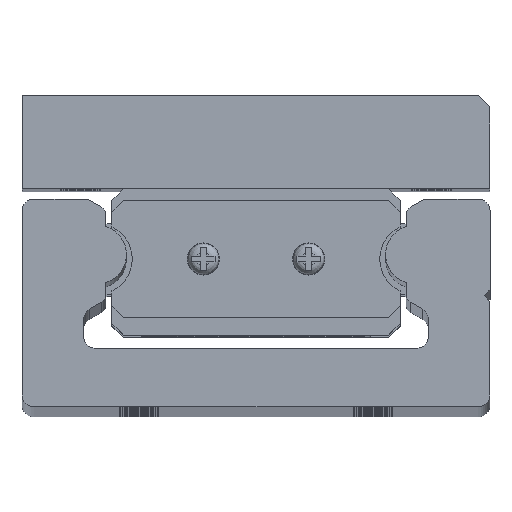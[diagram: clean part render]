
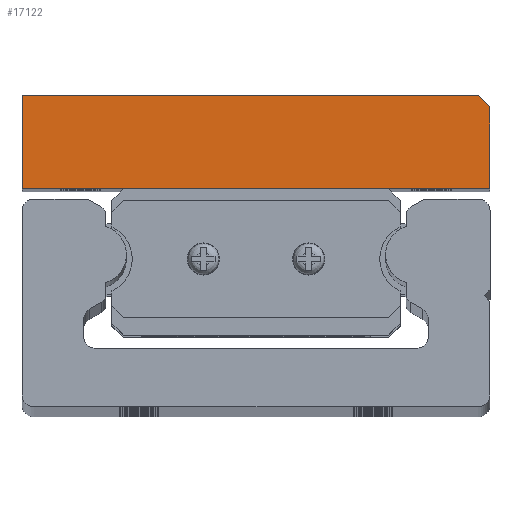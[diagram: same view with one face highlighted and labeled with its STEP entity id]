
A CAD part, top view. The second image highlights one B-rep face of the part: STEP entity #17122.
In plain terms, the highlighted planar face has unit normal (0, 0, 1).
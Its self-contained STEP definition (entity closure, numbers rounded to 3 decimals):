
#112 = CARTESIAN_POINT ( 'NONE',  ( -40., 28., 280. ) ) ;
#345 = CARTESIAN_POINT ( 'NONE',  ( 0., 0., 280. ) ) ;
#530 = VERTEX_POINT ( 'NONE', #21019 ) ;
#1352 = DIRECTION ( 'NONE',  ( 0., -1., 0. ) ) ;
#2835 = EDGE_CURVE ( 'NONE', #11044, #11874, #16688, .T. ) ;
#3238 = VECTOR ( 'NONE', #1352, 1000. ) ;
#3505 = ORIENTED_EDGE ( 'NONE', *, *, #2835, .T. ) ;
#3620 = DIRECTION ( 'NONE',  ( 1., 0., 0. ) ) ;
#3631 = CARTESIAN_POINT ( 'NONE',  ( 40., 26., 280. ) ) ;
#4302 = ORIENTED_EDGE ( 'NONE', *, *, #11219, .T. ) ;
#5272 = DIRECTION ( 'NONE',  ( 0., 1., 0. ) ) ;
#5698 = EDGE_CURVE ( 'NONE', #530, #11044, #21090, .T. ) ;
#5833 = VERTEX_POINT ( 'NONE', #16334 ) ;
#6710 = VECTOR ( 'NONE', #5272, 1000. ) ;
#7202 = CARTESIAN_POINT ( 'NONE',  ( 40., 12., 280. ) ) ;
#7775 = PLANE ( 'NONE',  #15881 ) ;
#8513 = EDGE_CURVE ( 'NONE', #11874, #5833, #14184, .T. ) ;
#8615 = VECTOR ( 'NONE', #11111, 1000. ) ;
#9227 = DIRECTION ( 'NONE',  ( 0., 0., 1. ) ) ;
#9607 = EDGE_CURVE ( 'NONE', #5833, #17089, #15564, .T. ) ;
#9773 = DIRECTION ( 'NONE',  ( -1., 0., 0. ) ) ;
#10238 = EDGE_LOOP ( 'NONE', ( #3505, #19683, #22338, #4302, #13083 ) ) ;
#11044 = VERTEX_POINT ( 'NONE', #7202 ) ;
#11111 = DIRECTION ( 'NONE',  ( -0.707, 0.707, 0. ) ) ;
#11219 = EDGE_CURVE ( 'NONE', #17089, #530, #20005, .T. ) ;
#11646 = FACE_OUTER_BOUND ( 'NONE', #10238, .T. ) ;
#11874 = VERTEX_POINT ( 'NONE', #3631 ) ;
#13083 = ORIENTED_EDGE ( 'NONE', *, *, #5698, .T. ) ;
#13761 = VECTOR ( 'NONE', #9773, 1000. ) ;
#14184 = LINE ( 'NONE', #16767, #8615 ) ;
#15564 = LINE ( 'NONE', #22856, #13761 ) ;
#15881 = AXIS2_PLACEMENT_3D ( 'NONE', #345, #9227, #24151 ) ;
#16334 = CARTESIAN_POINT ( 'NONE',  ( 38., 28., 280. ) ) ;
#16607 = CARTESIAN_POINT ( 'NONE',  ( -40., 28., 280. ) ) ;
#16688 = LINE ( 'NONE', #17257, #6710 ) ;
#16748 = CARTESIAN_POINT ( 'NONE',  ( -40., 12., 280. ) ) ;
#16767 = CARTESIAN_POINT ( 'NONE',  ( 33., 33., 280. ) ) ;
#17089 = VERTEX_POINT ( 'NONE', #112 ) ;
#17122 = ADVANCED_FACE ( 'NONE', ( #11646 ), #7775, .T. ) ;
#17257 = CARTESIAN_POINT ( 'NONE',  ( 40., 28., 280. ) ) ;
#19683 = ORIENTED_EDGE ( 'NONE', *, *, #8513, .T. ) ;
#20005 = LINE ( 'NONE', #16607, #3238 ) ;
#21019 = CARTESIAN_POINT ( 'NONE',  ( -40., 12., 280. ) ) ;
#21090 = LINE ( 'NONE', #16748, #22532 ) ;
#22338 = ORIENTED_EDGE ( 'NONE', *, *, #9607, .T. ) ;
#22532 = VECTOR ( 'NONE', #3620, 1000. ) ;
#22856 = CARTESIAN_POINT ( 'NONE',  ( -40., 28., 280. ) ) ;
#24151 = DIRECTION ( 'NONE',  ( 1., 0., 0. ) ) ;
